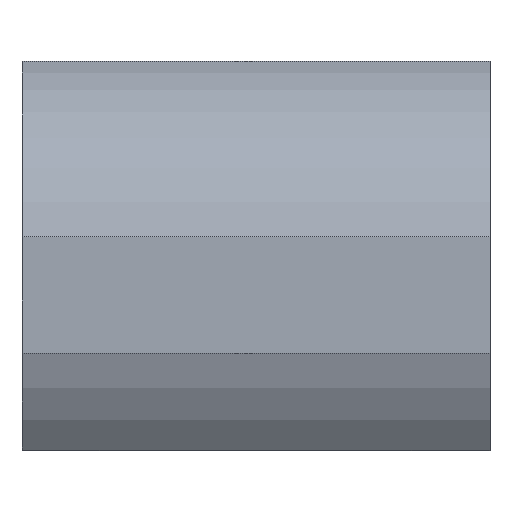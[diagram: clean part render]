
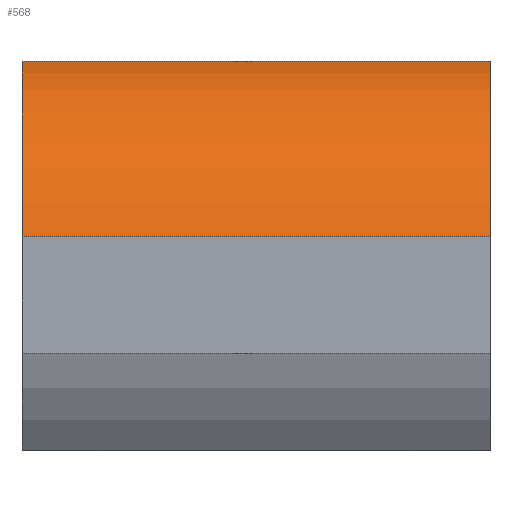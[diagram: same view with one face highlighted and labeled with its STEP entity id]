
A CAD part, top view. The second image highlights one B-rep face of the part: STEP entity #568.
In plain terms, the highlighted cylindrical face has radius 17 mm (diameter 34 mm), a partial arc.
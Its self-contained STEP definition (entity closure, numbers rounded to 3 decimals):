
#34 = FACE_OUTER_BOUND ( 'NONE', #694, .T. ) ;
#38 = CARTESIAN_POINT ( 'NONE',  ( 16.5, 16.5, 4.093 ) ) ;
#43 = VERTEX_POINT ( 'NONE', #186 ) ;
#85 = DIRECTION ( 'NONE',  ( 1., 0., 0. ) ) ;
#96 = ORIENTED_EDGE ( 'NONE', *, *, #372, .T. ) ;
#110 = ORIENTED_EDGE ( 'NONE', *, *, #341, .T. ) ;
#129 = VERTEX_POINT ( 'NONE', #463 ) ;
#151 = LINE ( 'NONE', #638, #437 ) ;
#166 = ORIENTED_EDGE ( 'NONE', *, *, #474, .T. ) ;
#186 = CARTESIAN_POINT ( 'NONE',  ( 16.5, 16.5, 4.093 ) ) ;
#217 = VECTOR ( 'NONE', #309, 1000. ) ;
#220 = DIRECTION ( 'NONE',  ( 0., 0., 1. ) ) ;
#259 = DIRECTION ( 'NONE',  ( 1., 0., 0. ) ) ;
#262 = DIRECTION ( 'NONE',  ( 0., 0., -1. ) ) ;
#283 = AXIS2_PLACEMENT_3D ( 'NONE', #507, #766, #489 ) ;
#303 = AXIS2_PLACEMENT_3D ( 'NONE', #576, #259, #262 ) ;
#304 = ORIENTED_EDGE ( 'NONE', *, *, #536, .F. ) ;
#309 = DIRECTION ( 'NONE',  ( -1., 0., 0. ) ) ;
#341 = EDGE_CURVE ( 'NONE', #794, #129, #682, .T. ) ;
#372 = EDGE_CURVE ( 'NONE', #43, #794, #435, .T. ) ;
#391 = CARTESIAN_POINT ( 'NONE',  ( 16.5, 4.093, 16.5 ) ) ;
#420 = CARTESIAN_POINT ( 'NONE',  ( -16.5, 16.5, 4.093 ) ) ;
#435 = LINE ( 'NONE', #38, #217 ) ;
#437 = VECTOR ( 'NONE', #85, 1000. ) ;
#449 = VERTEX_POINT ( 'NONE', #391 ) ;
#463 = CARTESIAN_POINT ( 'NONE',  ( -16.5, 4.093, 16.5 ) ) ;
#474 = EDGE_CURVE ( 'NONE', #129, #449, #151, .T. ) ;
#489 = DIRECTION ( 'NONE',  ( 0., 0., -1. ) ) ;
#507 = CARTESIAN_POINT ( 'NONE',  ( -16.5, 0., 0. ) ) ;
#536 = EDGE_CURVE ( 'NONE', #43, #449, #676, .T. ) ;
#568 = ADVANCED_FACE ( 'NONE', ( #34 ), #792, .T. ) ;
#576 = CARTESIAN_POINT ( 'NONE',  ( 16.5, 0., 0. ) ) ;
#597 = CARTESIAN_POINT ( 'NONE',  ( 16.5, 0., 0. ) ) ;
#622 = AXIS2_PLACEMENT_3D ( 'NONE', #597, #798, #220 ) ;
#638 = CARTESIAN_POINT ( 'NONE',  ( 16.5, 4.093, 16.5 ) ) ;
#676 = CIRCLE ( 'NONE', #303, 17. ) ;
#682 = CIRCLE ( 'NONE', #283, 17. ) ;
#694 = EDGE_LOOP ( 'NONE', ( #304, #96, #110, #166 ) ) ;
#766 = DIRECTION ( 'NONE',  ( 1., 0., 0. ) ) ;
#792 = CYLINDRICAL_SURFACE ( 'NONE', #622, 17. ) ;
#794 = VERTEX_POINT ( 'NONE', #420 ) ;
#798 = DIRECTION ( 'NONE',  ( -1., 0., 0. ) ) ;
